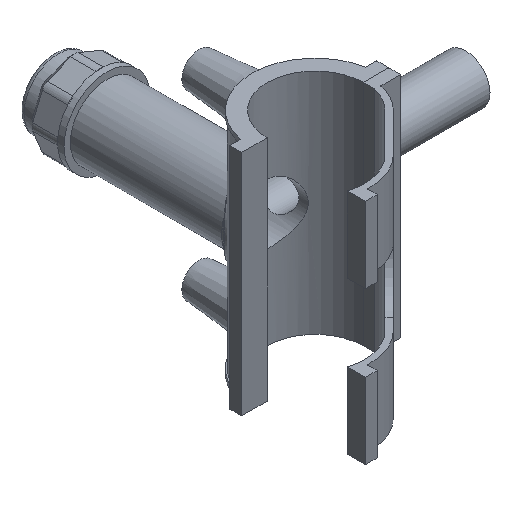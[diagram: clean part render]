
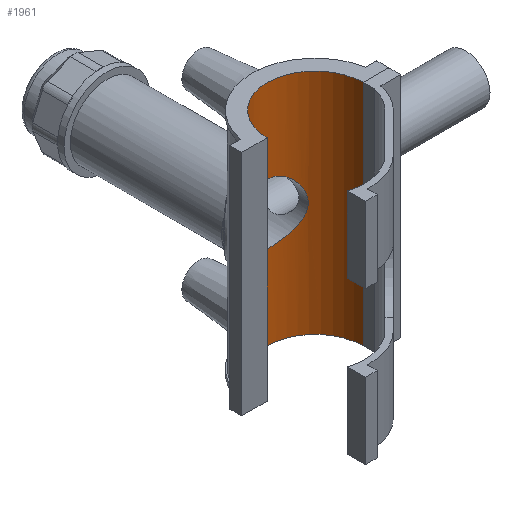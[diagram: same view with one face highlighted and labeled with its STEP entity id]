
A CAD part, isometric view. The second image highlights one B-rep face of the part: STEP entity #1961.
In plain terms, the highlighted cylindrical face has radius 21.05 mm (diameter 42.1 mm), a partial arc.
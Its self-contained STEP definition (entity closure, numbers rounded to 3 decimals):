
#51=FACE_BOUND('',#632,.T.);
#52=B_SPLINE_CURVE_WITH_KNOTS('',3,(#2806,#2807,#2808,#2809,#2810,#2811,
#2812,#2813,#2814,#2815,#2816,#2817,#2818,#2819,#2820,#2821,#2822,#2823,
#2824,#2825,#2826,#2827,#2828,#2829,#2830,#2831,#2832,#2833,#2834,#2835,
#2836,#2837,#2838,#2839,#2840,#2841,#2842,#2843),.UNSPECIFIED.,.F.,.F.,
(4,2,2,2,2,2,2,2,2,2,2,2,2,2,2,2,2,2,4),(0.,0.26,0.52,
1.039,1.554,1.812,2.07,2.327,
2.585,3.1,3.62,3.88,4.14,
4.399,4.659,5.179,5.694,5.952,
6.209),.UNSPECIFIED.);
#53=B_SPLINE_CURVE_WITH_KNOTS('',3,(#2844,#2845,#2846,#2847,#2848,#2849,
#2850,#2851,#2852,#2853,#2854,#2855,#2856,#2857),.UNSPECIFIED.,.F.,.F.,
(4,2,2,2,2,2,4),(6.209,6.467,6.725,7.24,
7.759,8.019,8.279),.UNSPECIFIED.);
#179=LINE('',#3783,#336);
#180=LINE('',#3787,#337);
#336=VECTOR('',#2638,10.);
#337=VECTOR('',#2641,10.);
#420=CYLINDRICAL_SURFACE('',#2175,21.05);
#511=FACE_OUTER_BOUND('',#631,.T.);
#631=EDGE_LOOP('',(#1664,#1665,#1666,#1667));
#632=EDGE_LOOP('',(#1668,#1669));
#733=CIRCLE('',#2172,21.05);
#734=CIRCLE('',#2174,21.05);
#753=VERTEX_POINT('',#2803);
#754=VERTEX_POINT('',#2805);
#891=VERTEX_POINT('',#3777);
#893=VERTEX_POINT('',#3781);
#894=VERTEX_POINT('',#3785);
#895=VERTEX_POINT('',#3786);
#945=EDGE_CURVE('',#754,#753,#52,.T.);
#946=EDGE_CURVE('',#753,#754,#53,.T.);
#1154=EDGE_CURVE('',#891,#893,#179,.T.);
#1155=EDGE_CURVE('',#894,#895,#180,.T.);
#1161=EDGE_CURVE('',#891,#895,#733,.T.);
#1162=EDGE_CURVE('',#894,#893,#734,.T.);
#1664=ORIENTED_EDGE('',*,*,#1155,.T.);
#1665=ORIENTED_EDGE('',*,*,#1161,.F.);
#1666=ORIENTED_EDGE('',*,*,#1154,.T.);
#1667=ORIENTED_EDGE('',*,*,#1162,.F.);
#1668=ORIENTED_EDGE('',*,*,#945,.T.);
#1669=ORIENTED_EDGE('',*,*,#946,.T.);
#1961=ADVANCED_FACE('',(#511,#51),#420,.F.);
#2172=AXIS2_PLACEMENT_3D('',#3796,#2649,#2650);
#2174=AXIS2_PLACEMENT_3D('',#3798,#2653,#2654);
#2175=AXIS2_PLACEMENT_3D('',#3801,#2657,#2658);
#2638=DIRECTION('',(0.,0.,-1.));
#2641=DIRECTION('',(0.,0.,1.));
#2649=DIRECTION('center_axis',(0.,0.,-1.));
#2650=DIRECTION('ref_axis',(-1.,0.,0.));
#2653=DIRECTION('center_axis',(0.,0.,1.));
#2654=DIRECTION('ref_axis',(-1.,0.,0.));
#2657=DIRECTION('center_axis',(0.,0.,1.));
#2658=DIRECTION('ref_axis',(-1.,0.,0.));
#2803=CARTESIAN_POINT('',(0.,21.05,-13.262));
#2805=CARTESIAN_POINT('',(-13.262,16.347,0.));
#2806=CARTESIAN_POINT('Ctrl Pts',(-13.262,16.347,0.));
#2807=CARTESIAN_POINT('Ctrl Pts',(-13.262,16.347,0.866));
#2808=CARTESIAN_POINT('Ctrl Pts',(-13.175,16.418,1.748));
#2809=CARTESIAN_POINT('Ctrl Pts',(-12.827,16.692,3.483));
#2810=CARTESIAN_POINT('Ctrl Pts',(-12.564,16.895,4.335));
#2811=CARTESIAN_POINT('Ctrl Pts',(-11.541,17.624,6.766));
#2812=CARTESIAN_POINT('Ctrl Pts',(-10.533,18.271,8.222));
#2813=CARTESIAN_POINT('Ctrl Pts',(-8.232,19.416,10.523));
#2814=CARTESIAN_POINT('Ctrl Pts',(-6.773,20.001,11.538));
#2815=CARTESIAN_POINT('Ctrl Pts',(-4.331,20.617,12.565));
#2816=CARTESIAN_POINT('Ctrl Pts',(-3.476,20.78,12.829));
#2817=CARTESIAN_POINT('Ctrl Pts',(-1.739,20.996,13.177));
#2818=CARTESIAN_POINT('Ctrl Pts',(-0.859,21.05,13.262));
#2819=CARTESIAN_POINT('Ctrl Pts',(0.859,21.05,13.262));
#2820=CARTESIAN_POINT('Ctrl Pts',(1.739,20.996,13.177));
#2821=CARTESIAN_POINT('Ctrl Pts',(3.476,20.78,12.829));
#2822=CARTESIAN_POINT('Ctrl Pts',(4.331,20.617,12.565));
#2823=CARTESIAN_POINT('Ctrl Pts',(6.773,20.001,11.538));
#2824=CARTESIAN_POINT('Ctrl Pts',(8.232,19.416,10.523));
#2825=CARTESIAN_POINT('Ctrl Pts',(10.533,18.271,8.222));
#2826=CARTESIAN_POINT('Ctrl Pts',(11.541,17.624,6.766));
#2827=CARTESIAN_POINT('Ctrl Pts',(12.564,16.895,4.335));
#2828=CARTESIAN_POINT('Ctrl Pts',(12.827,16.692,3.483));
#2829=CARTESIAN_POINT('Ctrl Pts',(13.175,16.418,1.748));
#2830=CARTESIAN_POINT('Ctrl Pts',(13.262,16.347,0.866));
#2831=CARTESIAN_POINT('Ctrl Pts',(13.262,16.347,-0.866));
#2832=CARTESIAN_POINT('Ctrl Pts',(13.175,16.418,-1.748));
#2833=CARTESIAN_POINT('Ctrl Pts',(12.827,16.692,-3.483));
#2834=CARTESIAN_POINT('Ctrl Pts',(12.564,16.895,-4.335));
#2835=CARTESIAN_POINT('Ctrl Pts',(11.541,17.624,-6.766));
#2836=CARTESIAN_POINT('Ctrl Pts',(10.533,18.271,-8.222));
#2837=CARTESIAN_POINT('Ctrl Pts',(8.232,19.416,-10.523));
#2838=CARTESIAN_POINT('Ctrl Pts',(6.773,20.001,-11.538));
#2839=CARTESIAN_POINT('Ctrl Pts',(4.331,20.617,-12.565));
#2840=CARTESIAN_POINT('Ctrl Pts',(3.476,20.78,-12.829));
#2841=CARTESIAN_POINT('Ctrl Pts',(1.739,20.996,-13.177));
#2842=CARTESIAN_POINT('Ctrl Pts',(0.859,21.05,-13.262));
#2843=CARTESIAN_POINT('Ctrl Pts',(0.,21.05,-13.262));
#2844=CARTESIAN_POINT('Ctrl Pts',(0.,21.05,-13.262));
#2845=CARTESIAN_POINT('Ctrl Pts',(-0.859,21.05,-13.262));
#2846=CARTESIAN_POINT('Ctrl Pts',(-1.739,20.996,-13.177));
#2847=CARTESIAN_POINT('Ctrl Pts',(-3.476,20.78,-12.829));
#2848=CARTESIAN_POINT('Ctrl Pts',(-4.331,20.617,-12.565));
#2849=CARTESIAN_POINT('Ctrl Pts',(-6.773,20.001,-11.538));
#2850=CARTESIAN_POINT('Ctrl Pts',(-8.232,19.416,-10.523));
#2851=CARTESIAN_POINT('Ctrl Pts',(-10.533,18.271,-8.222));
#2852=CARTESIAN_POINT('Ctrl Pts',(-11.541,17.624,-6.766));
#2853=CARTESIAN_POINT('Ctrl Pts',(-12.564,16.895,-4.335));
#2854=CARTESIAN_POINT('Ctrl Pts',(-12.827,16.692,-3.483));
#2855=CARTESIAN_POINT('Ctrl Pts',(-13.175,16.418,-1.748));
#2856=CARTESIAN_POINT('Ctrl Pts',(-13.262,16.347,-0.866));
#2857=CARTESIAN_POINT('Ctrl Pts',(-13.262,16.347,0.));
#3777=CARTESIAN_POINT('',(-21.05,0.05,50.038));
#3781=CARTESIAN_POINT('',(-21.05,0.05,-50.038));
#3783=CARTESIAN_POINT('',(-21.05,0.05,0.));
#3785=CARTESIAN_POINT('',(21.05,0.05,-50.038));
#3786=CARTESIAN_POINT('',(21.05,0.05,50.038));
#3787=CARTESIAN_POINT('',(21.05,0.05,0.));
#3796=CARTESIAN_POINT('Origin',(0.,0.,50.038));
#3798=CARTESIAN_POINT('Origin',(0.,0.,-50.038));
#3801=CARTESIAN_POINT('Origin',(0.,0.,0.));
